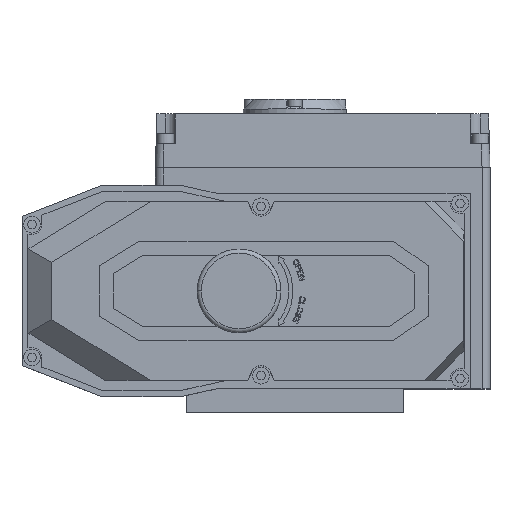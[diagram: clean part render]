
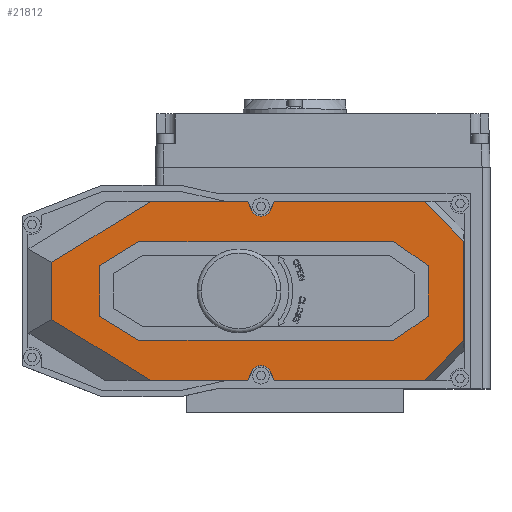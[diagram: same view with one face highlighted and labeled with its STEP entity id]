
A CAD part, top view. The second image highlights one B-rep face of the part: STEP entity #21812.
In plain terms, the highlighted planar face has unit normal (0, 0, 1).
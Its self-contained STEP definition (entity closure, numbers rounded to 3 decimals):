
#16382=DIRECTION('',(0.,-1.,0.));
#16383=VECTOR('',#16382,25.343);
#16384=CARTESIAN_POINT('',(-98.082,12.671,26.));
#16385=LINE('',#16384,#16383);
#16386=DIRECTION('',(0.852,-0.524,0.));
#16387=VECTOR('',#16386,23.191);
#16388=CARTESIAN_POINT('',(-98.082,-12.671,26.));
#16389=LINE('',#16388,#16387);
#16390=DIRECTION('',(1.,0.,0.));
#16391=VECTOR('',#16390,127.974);
#16392=CARTESIAN_POINT('',(-78.332,-24.825,26.));
#16393=LINE('',#16392,#16391);
#16394=DIRECTION('',(0.819,0.574,0.));
#16395=VECTOR('',#16394,21.19);
#16396=CARTESIAN_POINT('',(49.642,-24.825,26.));
#16397=LINE('',#16396,#16395);
#16398=DIRECTION('',(0.,1.,0.));
#16399=VECTOR('',#16398,25.343);
#16400=CARTESIAN_POINT('',(67.,-12.671,26.));
#16401=LINE('',#16400,#16399);
#16402=DIRECTION('',(-0.819,0.574,0.));
#16403=VECTOR('',#16402,21.19);
#16404=CARTESIAN_POINT('',(67.,12.671,26.));
#16405=LINE('',#16404,#16403);
#16406=DIRECTION('',(-1.,0.,0.));
#16407=VECTOR('',#16406,127.974);
#16408=CARTESIAN_POINT('',(49.642,24.825,26.));
#16409=LINE('',#16408,#16407);
#16410=DIRECTION('',(-0.852,-0.524,0.));
#16411=VECTOR('',#16410,23.191);
#16412=CARTESIAN_POINT('',(-78.332,24.825,26.));
#16413=LINE('',#16412,#16411);
#16414=DIRECTION('',(-0.423,-0.906,0.));
#16415=VECTOR('',#16414,4.897);
#16416=CARTESIAN_POINT('',(-10.399,44.825,26.));
#16417=LINE('',#16416,#16415);
#16418=DIRECTION('',(1.,0.,0.));
#16419=VECTOR('',#16418,75.426);
#16420=CARTESIAN_POINT('',(-10.399,44.825,26.));
#16421=LINE('',#16420,#16419);
#16422=DIRECTION('',(-0.707,0.707,0.));
#16423=VECTOR('',#16422,27.999);
#16424=CARTESIAN_POINT('',(84.825,25.027,26.));
#16425=LINE('',#16424,#16423);
#16426=DIRECTION('',(0.,1.,0.));
#16427=VECTOR('',#16426,50.054);
#16428=CARTESIAN_POINT('',(84.825,-25.027,26.));
#16429=LINE('',#16428,#16427);
#16430=DIRECTION('',(0.707,0.707,0.));
#16431=VECTOR('',#16430,27.999);
#16432=CARTESIAN_POINT('',(65.027,-44.825,26.));
#16433=LINE('',#16432,#16431);
#16434=DIRECTION('',(-1.,0.,0.));
#16435=VECTOR('',#16434,75.426);
#16436=CARTESIAN_POINT('',(65.027,-44.825,26.));
#16437=LINE('',#16436,#16435);
#16438=DIRECTION('',(-0.423,0.906,0.));
#16439=VECTOR('',#16438,4.897);
#16440=CARTESIAN_POINT('',(-10.399,-44.825,26.));
#16441=LINE('',#16440,#16439);
#16442=CARTESIAN_POINT('',(-17.,-42.5,26.));
#16443=DIRECTION('',(0.,0.,1.));
#16444=DIRECTION('',(0.906,0.423,0.));
#16445=AXIS2_PLACEMENT_3D('',#16442,#16443,#16444);
#16447=DIRECTION('',(0.423,0.906,0.));
#16448=VECTOR('',#16447,4.897);
#16449=CARTESIAN_POINT('',(-23.601,-44.825,26.));
#16450=LINE('',#16449,#16448);
#16451=DIRECTION('',(-1.,0.,0.));
#16452=VECTOR('',#16451,48.943);
#16453=CARTESIAN_POINT('',(-23.601,-44.825,26.));
#16454=LINE('',#16453,#16452);
#16455=DIRECTION('',(0.852,-0.524,0.));
#16456=VECTOR('',#16455,58.166);
#16457=CARTESIAN_POINT('',(-122.082,-14.341,26.));
#16458=LINE('',#16457,#16456);
#16459=DIRECTION('',(0.,-1.,0.));
#16460=VECTOR('',#16459,28.681);
#16461=CARTESIAN_POINT('',(-122.082,14.341,26.));
#16462=LINE('',#16461,#16460);
#16463=DIRECTION('',(-0.852,-0.524,0.));
#16464=VECTOR('',#16463,58.166);
#16465=CARTESIAN_POINT('',(-72.544,44.825,26.));
#16466=LINE('',#16465,#16464);
#16467=DIRECTION('',(1.,0.,0.));
#16468=VECTOR('',#16467,48.943);
#16469=CARTESIAN_POINT('',(-72.544,44.825,26.));
#16470=LINE('',#16469,#16468);
#16471=DIRECTION('',(0.423,-0.906,0.));
#16472=VECTOR('',#16471,4.897);
#16473=CARTESIAN_POINT('',(-23.601,44.825,26.));
#16474=LINE('',#16473,#16472);
#16475=CARTESIAN_POINT('',(-17.,42.5,26.));
#16476=DIRECTION('',(0.,0.,1.));
#16477=DIRECTION('',(-0.906,-0.423,0.));
#16478=AXIS2_PLACEMENT_3D('',#16475,#16476,#16477);
#19948=CARTESIAN_POINT('',(-122.082,14.341,26.));
#19949=CARTESIAN_POINT('',(-122.082,-14.341,26.));
#19950=VERTEX_POINT('',#19948);
#19951=VERTEX_POINT('',#19949);
#19953=CARTESIAN_POINT('',(-72.544,-44.825,26.));
#19955=VERTEX_POINT('',#19953);
#19956=CARTESIAN_POINT('',(-72.544,44.825,26.));
#19958=VERTEX_POINT('',#19956);
#19960=CARTESIAN_POINT('',(65.027,-44.825,26.));
#19961=CARTESIAN_POINT('',(84.825,-25.027,26.));
#19962=VERTEX_POINT('',#19960);
#19963=VERTEX_POINT('',#19961);
#19964=CARTESIAN_POINT('',(84.825,25.027,26.));
#19965=CARTESIAN_POINT('',(65.027,44.825,26.));
#19966=VERTEX_POINT('',#19964);
#19967=VERTEX_POINT('',#19965);
#19980=CARTESIAN_POINT('',(-98.082,12.671,26.));
#19981=CARTESIAN_POINT('',(-98.082,-12.671,26.));
#19982=VERTEX_POINT('',#19980);
#19983=VERTEX_POINT('',#19981);
#19984=CARTESIAN_POINT('',(-78.332,-24.825,26.));
#19985=VERTEX_POINT('',#19984);
#19986=CARTESIAN_POINT('',(49.642,-24.825,26.));
#19987=VERTEX_POINT('',#19986);
#19988=CARTESIAN_POINT('',(49.642,24.825,26.));
#19989=CARTESIAN_POINT('',(-78.332,24.825,26.));
#19990=VERTEX_POINT('',#19988);
#19991=VERTEX_POINT('',#19989);
#21040=CARTESIAN_POINT('',(67.,-12.671,26.));
#21041=VERTEX_POINT('',#21040);
#21042=CARTESIAN_POINT('',(67.,12.671,26.));
#21043=VERTEX_POINT('',#21042);
#21116=CARTESIAN_POINT('',(-10.399,44.825,26.));
#21117=CARTESIAN_POINT('',(-12.468,40.387,26.));
#21118=VERTEX_POINT('',#21116);
#21119=VERTEX_POINT('',#21117);
#21120=CARTESIAN_POINT('',(-23.601,44.825,26.));
#21121=CARTESIAN_POINT('',(-21.532,40.387,26.));
#21122=VERTEX_POINT('',#21120);
#21123=VERTEX_POINT('',#21121);
#21124=CARTESIAN_POINT('',(-12.468,-40.387,26.));
#21125=CARTESIAN_POINT('',(-21.532,-40.387,26.));
#21126=VERTEX_POINT('',#21124);
#21127=VERTEX_POINT('',#21125);
#21128=CARTESIAN_POINT('',(-23.601,-44.825,26.));
#21129=VERTEX_POINT('',#21128);
#21130=CARTESIAN_POINT('',(-10.399,-44.825,26.));
#21131=VERTEX_POINT('',#21130);
#21761=CARTESIAN_POINT('',(0.,0.,26.));
#21762=DIRECTION('',(0.,0.,1.));
#21763=DIRECTION('',(1.,0.,0.));
#21764=AXIS2_PLACEMENT_3D('',#21761,#21762,#21763);
#21765=PLANE('',#21764);
#21766=ORIENTED_EDGE('',*,*,#21754,.F.);
#21767=ORIENTED_EDGE('',*,*,#21711,.T.);
#21769=ORIENTED_EDGE('',*,*,#21768,.F.);
#21771=ORIENTED_EDGE('',*,*,#21770,.F.);
#21773=ORIENTED_EDGE('',*,*,#21772,.F.);
#21775=ORIENTED_EDGE('',*,*,#21774,.T.);
#21776=ORIENTED_EDGE('',*,*,#21514,.T.);
#21778=ORIENTED_EDGE('',*,*,#21777,.T.);
#21780=ORIENTED_EDGE('',*,*,#21779,.F.);
#21782=ORIENTED_EDGE('',*,*,#21781,.T.);
#21784=ORIENTED_EDGE('',*,*,#21783,.F.);
#21786=ORIENTED_EDGE('',*,*,#21785,.F.);
#21788=ORIENTED_EDGE('',*,*,#21787,.F.);
#21789=ORIENTED_EDGE('',*,*,#21695,.T.);
#21790=ORIENTED_EDGE('',*,*,#21727,.T.);
#21791=ORIENTED_EDGE('',*,*,#21740,.T.);
#21792=EDGE_LOOP('',(#21766,#21767,#21769,#21771,#21773,#21775,#21776,#21778,
#21780,#21782,#21784,#21786,#21788,#21789,#21790,#21791));
#21793=FACE_OUTER_BOUND('',#21792,.F.);
#21795=ORIENTED_EDGE('',*,*,#21794,.T.);
#21797=ORIENTED_EDGE('',*,*,#21796,.T.);
#21799=ORIENTED_EDGE('',*,*,#21798,.T.);
#21801=ORIENTED_EDGE('',*,*,#21800,.T.);
#21803=ORIENTED_EDGE('',*,*,#21802,.T.);
#21805=ORIENTED_EDGE('',*,*,#21804,.T.);
#21807=ORIENTED_EDGE('',*,*,#21806,.T.);
#21809=ORIENTED_EDGE('',*,*,#21808,.T.);
#21810=EDGE_LOOP('',(#21795,#21797,#21799,#21801,#21803,#21805,#21807,#21809));
#21811=FACE_BOUND('',#21810,.F.);
#21812=ADVANCED_FACE('',(#21793,#21811),#21765,.T.);
#16446=CIRCLE('',#16445,5.);
#16479=CIRCLE('',#16478,5.);
#21514=EDGE_CURVE('',#21131,#21126,#16441,.T.);
#21695=EDGE_CURVE('',#19958,#21122,#16470,.T.);
#21711=EDGE_CURVE('',#21118,#19967,#16421,.T.);
#21727=EDGE_CURVE('',#21122,#21123,#16474,.T.);
#21740=EDGE_CURVE('',#21123,#21119,#16479,.T.);
#21754=EDGE_CURVE('',#21118,#21119,#16417,.T.);
#21768=EDGE_CURVE('',#19966,#19967,#16425,.T.);
#21770=EDGE_CURVE('',#19963,#19966,#16429,.T.);
#21772=EDGE_CURVE('',#19962,#19963,#16433,.T.);
#21774=EDGE_CURVE('',#19962,#21131,#16437,.T.);
#21777=EDGE_CURVE('',#21126,#21127,#16446,.T.);
#21779=EDGE_CURVE('',#21129,#21127,#16450,.T.);
#21781=EDGE_CURVE('',#21129,#19955,#16454,.T.);
#21783=EDGE_CURVE('',#19951,#19955,#16458,.T.);
#21785=EDGE_CURVE('',#19950,#19951,#16462,.T.);
#21787=EDGE_CURVE('',#19958,#19950,#16466,.T.);
#21794=EDGE_CURVE('',#19982,#19983,#16385,.T.);
#21796=EDGE_CURVE('',#19983,#19985,#16389,.T.);
#21798=EDGE_CURVE('',#19985,#19987,#16393,.T.);
#21800=EDGE_CURVE('',#19987,#21041,#16397,.T.);
#21802=EDGE_CURVE('',#21041,#21043,#16401,.T.);
#21804=EDGE_CURVE('',#21043,#19990,#16405,.T.);
#21806=EDGE_CURVE('',#19990,#19991,#16409,.T.);
#21808=EDGE_CURVE('',#19991,#19982,#16413,.T.);
